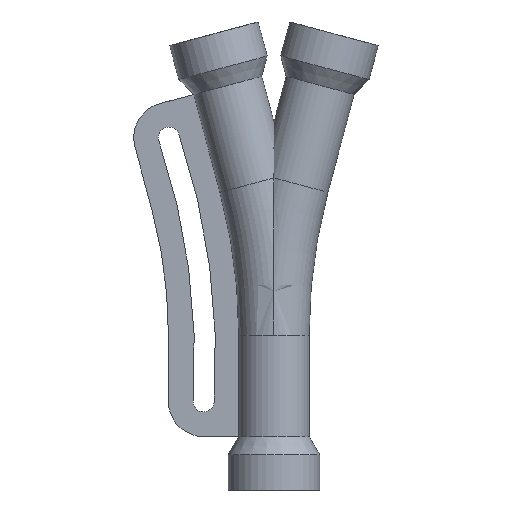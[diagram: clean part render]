
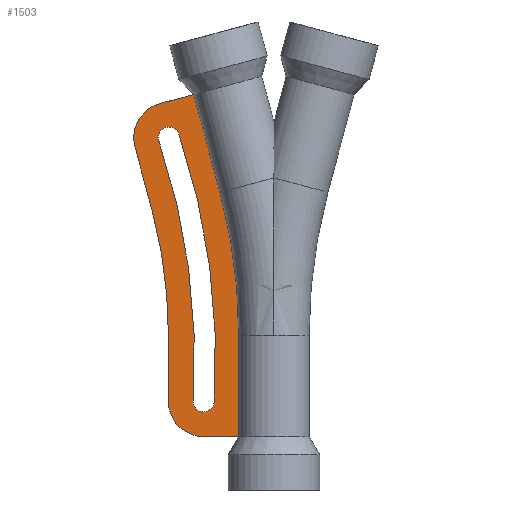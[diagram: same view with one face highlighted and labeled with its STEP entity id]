
A CAD part, front view. The second image highlights one B-rep face of the part: STEP entity #1503.
In plain terms, the highlighted planar face has unit normal (0, -1, 0).
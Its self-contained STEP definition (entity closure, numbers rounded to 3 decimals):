
#62=FACE_BOUND('',#270,.T.);
#84=CIRCLE('',#1614,95.861);
#85=CIRCLE('',#1616,1.5);
#86=CIRCLE('',#1618,98.861);
#87=CIRCLE('',#1620,1.5);
#88=CIRCLE('',#1622,5.);
#89=CIRCLE('',#1625,68.553);
#90=CIRCLE('',#1628,5.);
#91=CIRCLE('',#1632,78.553);
#174=FACE_OUTER_BOUND('',#269,.T.);
#269=EDGE_LOOP('',(#1171,#1172,#1173,#1174,#1175,#1176,#1177,#1178,#1179,
#1180));
#270=EDGE_LOOP('',(#1181,#1182,#1183,#1184));
#419=LINE('',#2404,#566);
#422=LINE('',#2412,#569);
#425=LINE('',#2419,#572);
#427=LINE('',#2423,#574);
#428=LINE('',#2426,#575);
#429=LINE('',#2429,#576);
#566=VECTOR('',#1926,10.);
#569=VECTOR('',#1935,10.);
#572=VECTOR('',#1944,10.);
#574=VECTOR('',#1948,10.);
#575=VECTOR('',#1951,10.);
#576=VECTOR('',#1954,10.);
#665=VERTEX_POINT('',#2281);
#692=VERTEX_POINT('',#2381);
#693=VERTEX_POINT('',#2383);
#694=VERTEX_POINT('',#2387);
#695=VERTEX_POINT('',#2391);
#696=VERTEX_POINT('',#2397);
#697=VERTEX_POINT('',#2399);
#698=VERTEX_POINT('',#2403);
#699=VERTEX_POINT('',#2407);
#700=VERTEX_POINT('',#2411);
#701=VERTEX_POINT('',#2415);
#702=VERTEX_POINT('',#2421);
#703=VERTEX_POINT('',#2425);
#704=VERTEX_POINT('',#2427);
#854=EDGE_CURVE('',#693,#692,#84,.T.);
#856=EDGE_CURVE('',#694,#693,#85,.T.);
#858=EDGE_CURVE('',#695,#694,#86,.T.);
#860=EDGE_CURVE('',#692,#695,#87,.T.);
#862=EDGE_CURVE('',#697,#696,#88,.T.);
#864=EDGE_CURVE('',#698,#697,#419,.T.);
#866=EDGE_CURVE('',#699,#698,#89,.T.);
#868=EDGE_CURVE('',#700,#699,#422,.T.);
#870=EDGE_CURVE('',#701,#700,#90,.T.);
#872=EDGE_CURVE('',#665,#701,#425,.T.);
#874=EDGE_CURVE('',#696,#702,#427,.T.);
#875=EDGE_CURVE('',#703,#702,#428,.T.);
#876=EDGE_CURVE('',#704,#703,#91,.T.);
#877=EDGE_CURVE('',#665,#704,#429,.T.);
#1171=ORIENTED_EDGE('',*,*,#874,.T.);
#1172=ORIENTED_EDGE('',*,*,#875,.F.);
#1173=ORIENTED_EDGE('',*,*,#876,.F.);
#1174=ORIENTED_EDGE('',*,*,#877,.F.);
#1175=ORIENTED_EDGE('',*,*,#872,.T.);
#1176=ORIENTED_EDGE('',*,*,#870,.T.);
#1177=ORIENTED_EDGE('',*,*,#868,.T.);
#1178=ORIENTED_EDGE('',*,*,#866,.T.);
#1179=ORIENTED_EDGE('',*,*,#864,.T.);
#1180=ORIENTED_EDGE('',*,*,#862,.T.);
#1181=ORIENTED_EDGE('',*,*,#860,.T.);
#1182=ORIENTED_EDGE('',*,*,#858,.T.);
#1183=ORIENTED_EDGE('',*,*,#856,.T.);
#1184=ORIENTED_EDGE('',*,*,#854,.T.);
#1437=PLANE('',#1631);
#1503=ADVANCED_FACE('',(#174,#62),#1437,.F.);
#1614=AXIS2_PLACEMENT_3D('',#2384,#1901,#1902);
#1616=AXIS2_PLACEMENT_3D('',#2388,#1906,#1907);
#1618=AXIS2_PLACEMENT_3D('',#2392,#1911,#1912);
#1620=AXIS2_PLACEMENT_3D('',#2395,#1916,#1917);
#1622=AXIS2_PLACEMENT_3D('',#2400,#1921,#1922);
#1625=AXIS2_PLACEMENT_3D('',#2408,#1930,#1931);
#1628=AXIS2_PLACEMENT_3D('',#2416,#1939,#1940);
#1631=AXIS2_PLACEMENT_3D('',#2424,#1949,#1950);
#1632=AXIS2_PLACEMENT_3D('',#2428,#1952,#1953);
#1901=DIRECTION('center_axis',(0.,-1.,0.));
#1902=DIRECTION('ref_axis',(0.947,0.,0.321));
#1906=DIRECTION('center_axis',(0.,1.,0.));
#1907=DIRECTION('ref_axis',(0.998,0.,-0.065));
#1911=DIRECTION('center_axis',(0.,1.,0.));
#1912=DIRECTION('ref_axis',(0.947,0.,0.321));
#1916=DIRECTION('center_axis',(0.,1.,0.));
#1917=DIRECTION('ref_axis',(-0.947,0.,-0.321));
#1921=DIRECTION('center_axis',(0.,-1.,0.));
#1922=DIRECTION('ref_axis',(0.,0.,
-1.));
#1926=DIRECTION('',(0.,0.,-1.));
#1930=DIRECTION('center_axis',(0.,1.,0.));
#1931=DIRECTION('ref_axis',(0.966,0.,0.259));
#1935=DIRECTION('',(0.259,0.,-0.966));
#1939=DIRECTION('center_axis',(0.,-1.,0.));
#1940=DIRECTION('ref_axis',(-0.966,0.,-0.259));
#1944=DIRECTION('',(-0.966,0.,-0.259));
#1948=DIRECTION('',(1.,0.,0.));
#1949=DIRECTION('center_axis',(0.,1.,0.));
#1950=DIRECTION('ref_axis',(-1.,0.,0.));
#1951=DIRECTION('',(0.,0.,-1.));
#1952=DIRECTION('center_axis',(0.,1.,0.));
#1953=DIRECTION('ref_axis',(0.966,0.,0.259));
#1954=DIRECTION('',(0.259,0.,-0.966));
#2281=CARTESIAN_POINT('',(-11.404,5.3,51.242));
#2381=CARTESIAN_POINT('',(-16.36,5.3,44.637));
#2383=CARTESIAN_POINT('',(-11.497,5.3,7.695));
#2384=CARTESIAN_POINT('Origin',(-107.157,5.3,13.892));
#2387=CARTESIAN_POINT('',(-8.503,5.3,7.501));
#2388=CARTESIAN_POINT('Origin',(-10.,5.3,7.598));
#2391=CARTESIAN_POINT('',(-13.519,5.3,45.6));
#2392=CARTESIAN_POINT('Origin',(-107.157,5.3,13.892));
#2395=CARTESIAN_POINT('Origin',(-14.94,5.3,45.119));
#2397=CARTESIAN_POINT('',(-10.,5.3,2.598));
#2399=CARTESIAN_POINT('',(-15.,5.3,7.598));
#2400=CARTESIAN_POINT('Origin',(-10.,5.3,7.598));
#2403=CARTESIAN_POINT('',(-15.,5.3,17.));
#2404=CARTESIAN_POINT('',(-15.,5.3,7.598));
#2407=CARTESIAN_POINT('',(-17.336,5.3,34.743));
#2408=CARTESIAN_POINT('Origin',(-83.553,5.3,17.));
#2411=CARTESIAN_POINT('',(-19.769,5.3,43.824));
#2412=CARTESIAN_POINT('',(-19.769,5.3,43.824));
#2415=CARTESIAN_POINT('',(-16.234,5.3,49.948));
#2416=CARTESIAN_POINT('Origin',(-14.94,5.3,45.119));
#2419=CARTESIAN_POINT('',(-11.404,5.3,51.242));
#2421=CARTESIAN_POINT('',(-5.,5.3,2.598));
#2423=CARTESIAN_POINT('',(-5.,5.3,2.598));
#2424=CARTESIAN_POINT('Origin',(-12.47,5.3,26.92));
#2425=CARTESIAN_POINT('',(-5.,5.3,17.));
#2426=CARTESIAN_POINT('',(-5.,5.3,14.96));
#2427=CARTESIAN_POINT('',(-7.677,5.3,37.331));
#2428=CARTESIAN_POINT('Origin',(-83.553,5.3,17.));
#2429=CARTESIAN_POINT('',(-8.4,5.3,40.029));
